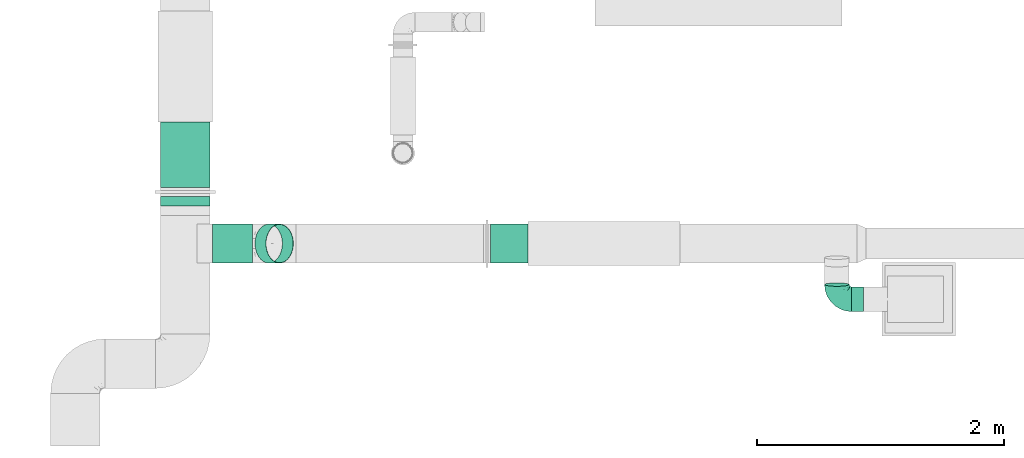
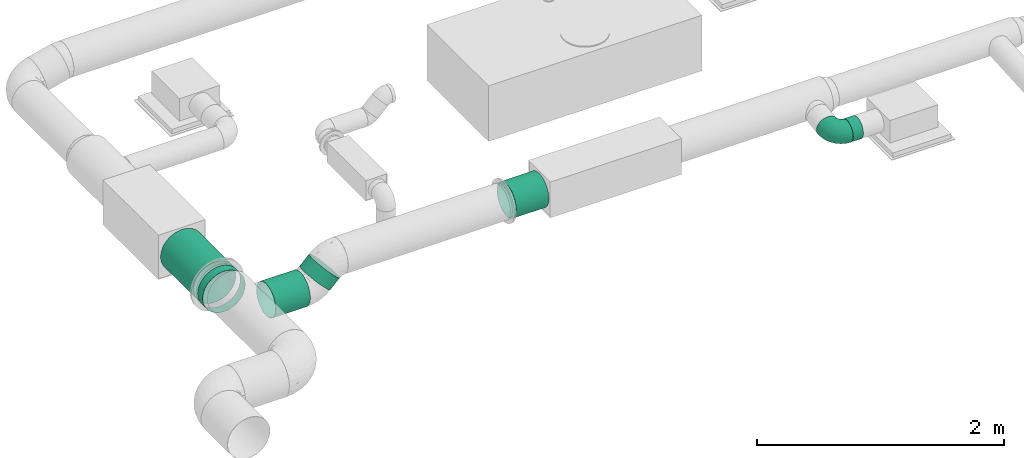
# One storey, part 3 of 16: 6 flow segments, 1 flow fitting.
"""IFC2X3 building model written with IfcOpenShell, lengths in millimetres."""

from ifc_helpers import new_model, entity, si_unit, converted_unit, derived_unit, direction, frame, origin_with_axes, origin_2d_with_axis, place, context, subcontext, project, spatial, hollow_circle, extrude, open_shell, surface_model, source, transform, mapped, type_object, element, save


model = new_model("IFC2X3")

# Units and contexts
model_context = context("Model", 3, precision=0.01, world=frame((0.0, 4.29681676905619e-09, 0.0)), true_north=direction((4.01073788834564e-13, 1.0)))
plan_context = context("Plan", 3, precision=0.01, world=frame((0.0, 4.29681676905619e-09, 0.0)), true_north=direction((4.01073788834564e-13, 1.0)))
body_context = subcontext(model_context, "Body", "Model", "MODEL_VIEW")
ifc_project = project(units=[converted_unit("PLANEANGLEUNIT", "DEGREE", entity("IfcPositiveLengthMeasure", 0.0174532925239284), si_unit("PLANEANGLEUNIT", "RADIAN"), dimensions=[0, 0, 0, 0, 0, 0, 0]), si_unit("AREAUNIT", "SQUARE_METRE"), si_unit("LENGTHUNIT", "METRE", prefix="MILLI"), si_unit("MASSUNIT", "GRAM", prefix="KILO"), si_unit("POWERUNIT", "WATT"), si_unit("PRESSUREUNIT", "PASCAL"), si_unit("FORCEUNIT", "NEWTON", prefix="KILO"), si_unit("ELECTRICVOLTAGEUNIT", "VOLT"), si_unit("ELECTRICCURRENTUNIT", "AMPERE"), si_unit("THERMODYNAMICTEMPERATUREUNIT", "DEGREE_CELSIUS"), si_unit("TIMEUNIT", "SECOND"), si_unit("VOLUMEUNIT", "CUBIC_METRE"), derived_unit("LINEARVELOCITYUNIT", [(si_unit("LENGTHUNIT", "METRE"), 1), (si_unit("TIMEUNIT", "SECOND"), -1)]), derived_unit("VOLUMETRICFLOWRATEUNIT", [(si_unit("VOLUMEUNIT", "CUBIC_METRE"), 1), (si_unit("TIMEUNIT", "SECOND"), -1)]), derived_unit("THERMALTRANSMITTANCEUNIT", [(si_unit("POWERUNIT", "WATT"), 1), (si_unit("THERMODYNAMICTEMPERATUREUNIT", "KELVIN"), -1), (si_unit("AREAUNIT", "SQUARE_METRE"), -1)]), derived_unit("SOUNDPRESSUREUNIT", [(si_unit("PRESSUREUNIT", "PASCAL"), 1)])], contexts=[model_context, plan_context])

# Site, building, storey
site_placement = place(None, frame((0.0, -4.29681676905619e-09, 0.0), z_axis=(0.0, 0.0, 1.0), x_axis=(1.0, 0.0, 0.0)))
site = spatial("IfcSite", under=ifc_project, at=site_placement, Name="ENGM", CompositionType="ELEMENT")
building_placement = place(site_placement, frame((0.0, 4.29681676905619e-09, 0.0), z_axis=(0.0, 0.0, 1.0), x_axis=(1.0, 0.0, 0.0)))
building = spatial("IfcBuilding", under=site, at=building_placement, Name="TH", CompositionType="ELEMENT")
storey_placement = place(building_placement, frame((0.0, 0.0, 210200.0), z_axis=(0.0, 0.0, 1.0), x_axis=(1.0, 0.0, 0.0)))
storey = spatial("IfcBuildingStorey", under=building, at=storey_placement, Name="Nivå F - 0,7 m", CompositionType="ELEMENT", Elevation=210200.0)

# Flow fitting
duct_fitting_type = type_object("IfcDuctFittingType", Name="magicirc_elbow_short_001", PredefinedType="BEND")
shared_shape_1 = source(origin_with_axes(), body_context, "Body", "SurfaceModel", [
    surface_model("IfcShellBasedSurfaceModel", [(-120.0, 0.0, -100.0), (-120.0, -86.60254, -50.0), (-120.0, 25.8819, -96.59259), (-120.0, 50.0, -86.60254), (-120.0, 70.71068, -70.71068), (-120.0, 96.59259, -25.8819), (-120.0, 86.60254, -50.0), (-120.0, -50.0, -86.60254), (-120.0, -70.71068, -70.71068), (-120.0, -25.8819, -96.59259), (-120.0, -96.59259, -25.8819), (-120.0, -100.0, 0.0), (-120.0, 96.59259, 25.8819), (-120.0, -96.59259, 25.8819), (-120.0, 86.60254, 50.0), (-120.0, 25.8819, 96.59259), (-120.0, 50.0, 86.60254), (-120.0, 70.71068, 70.71068), (-120.0, -25.8819, 96.59259), (-120.0, -70.71068, 70.71068), (-120.0, -50.0, 86.60254), (-120.0, -86.60254, 50.0), (-120.0, 0.0, 100.0), (-120.0, 100.0, 0.0), (-25.8819, 120.0, -96.59259), (70.71068, 120.0, -70.71068), (0.0, 120.0, -100.0), (-70.71068, 120.0, -70.71068), (-50.0, 120.0, -86.60254), (-86.60254, 120.0, -50.0), (-96.59259, 120.0, -25.8819), (86.60254, 120.0, -50.0), (25.8819, 120.0, -96.59259), (50.0, 120.0, -86.60254), (100.0, 120.0, 0.0), (96.59259, 120.0, -25.8819), (-96.59259, 120.0, 25.8819), (96.59259, 120.0, 25.8819), (-25.8819, 120.0, 96.59259), (-86.60254, 120.0, 50.0), (-70.71068, 120.0, 70.71068), (-50.0, 120.0, 86.60254), (25.8819, 120.0, 96.59259), (86.60254, 120.0, 50.0), (50.0, 120.0, 86.60254), (70.71068, 120.0, 70.71068), (0.0, 120.0, 100.0), (-100.0, 120.0, 0.0), (-57.47657, 95.22229, 84.95805), (-85.33946, -92.96309, 28.79275), (-95.20929, -97.20676, 0.0), (-84.48473, -65.01559, 72.95431), (-52.96075, -70.60035, 57.16979), (-58.29219, -58.77958, 72.2572), (-71.0454, -94.48414, 0.0), (-33.46621, 86.30074, 96.24781), (-7.45333, 88.76819, 99.94878), (-26.53059, -25.83103, 84.66541), (5.23459, -24.1841, 70.44192), (-1.23107, 1.23105, 87.74618), (-103.71213, 103.71213, 24.44784), (-95.28171, 98.70414, 48.64074), (-78.83961, -43.63421, 87.3226), (48.45058, -8.12007, 40.03254), (39.62941, -27.51041, 22.8702), (55.13075, -9.11298, 21.86769), (27.15427, -27.15428, 47.29752), (-0.9865, -46.35038, 53.41318), (-49.25997, -85.42957, 23.21428), (-69.41482, -80.94006, 48.93369), (34.63169, 2.36241, 66.9375), (-59.03727, -17.74459, 95.19283), (-92.36993, -18.34983, 97.75252), (-98.24586, -81.70799, 55.95793), (-87.21661, 7.38787, 99.96319), (-79.82304, 33.86298, 96.83649), (-103.25245, 34.36931, 94.48617), (-49.8635, 16.95363, 99.89181), (-93.99414, 57.52782, 85.21417), (-13.524, 31.6217, 98.29715), (-30.34675, -2.85909, 94.71053), (-102.74619, 77.59979, 67.01377), (-105.2102, 88.7141, 52.03645), (94.48414, 71.0454, 0.0), (92.96309, 85.33946, 28.79275), (85.42957, 49.25997, 23.21428), (18.34983, 92.36993, 97.75252), (-37.44754, -44.66633, 76.66985), (-66.8783, 56.54931, 92.80405), (65.01559, 84.48473, 72.95431), (43.6342, 78.83961, 87.3226), (37.67702, 38.38344, 81.78155), (58.58205, 33.30331, 61.93165), (58.77958, 58.29217, 72.2572), (14.52663, -47.57763, 31.54394), (81.70799, 98.24586, 55.95793), (97.20676, 95.20929, 0.0), (75.2275, 38.8764, 40.54554), (80.94006, 69.41482, 48.93369), (-19.32309, 64.21329, 99.87988), (-105.85786, 105.85786, 0.0), (17.74458, 59.03726, 95.19283), (70.60036, 52.96074, 57.16978), (-82.76473, 82.76473, 73.92657), (-77.59979, 102.74619, 67.01377), (-38.87641, -75.2275, 40.54555), (-40.86148, 50.04827, 98.96107), (-25.82378, -76.70765, 19.45345), (-49.50418, 71.23352, 93.94065), (-57.3172, 35.12243, 98.9453), (65.10804, 3.68891, 0.0), (65.80674, 11.30259, 30.40508), (15.01777, 28.10412, 90.12797), (-0.1518, 65.0789, 99.29745), (-47.79548, -86.34864, 0.0), (-67.45496, 75.91085, 85.7741), (-3.68891, -65.10804, 0.0), (17.16776, -52.00293, 0.0), (-11.30259, -65.80674, 30.40508), (-24.54558, -78.21315, 0.0), (76.76895, 27.91333, 23.28633), (86.34864, 47.79548, 0.0), (58.40844, 13.74403, 48.13414), (52.00293, -17.16776, 0.0), (20.33542, 8.19535, 80.42602), (-51.11653, -33.50476, 87.58865), (-33.30333, -58.58206, 61.93166), (-17.26255, -60.80757, 47.57586), (78.21315, 24.54558, 0.0), (34.58534, -34.58534, 0.0), (-86.30074, 33.4662, -96.24781), (-34.36932, 103.25245, -94.48617), (-11.30259, -65.80673, -30.40508), (9.11298, -55.13075, -21.86769), (-98.24586, -81.70799, -55.95793), (-88.7682, 7.45333, -99.94878), (43.63421, 78.83961, -87.3226), (-98.70414, 95.28171, -48.64074), (-82.76473, 82.76473, -73.92657), (-102.74619, 77.59979, -67.01377), (85.42957, 49.25997, -23.21428), (75.22749, 38.8764, -40.54555), (80.94006, 69.41482, -48.93369), (27.15427, -27.15428, -47.29753), (47.57763, -14.52663, -31.54396), (27.51041, -39.62941, -22.8702), (-71.23352, 49.50417, -93.94066), (-56.54932, 66.8783, -92.80405), (-50.04827, 40.86148, -98.96107), (-33.86298, 79.82303, -96.83649), (-57.52782, 93.99414, -85.21417), (-16.95364, 49.8635, -99.89182), (-31.6217, 13.52399, -98.29715), (-85.33946, -92.96309, -28.79275), (24.18408, -5.23461, -70.44192), (46.35038, 0.9865, -53.41318), (65.01559, 84.48472, -72.95431), (-84.48473, -65.01559, -72.95431), (-78.83961, -43.63421, -87.3226), (-103.71213, 103.71213, -24.44784), (-95.22229, 57.47657, -84.95805), (-49.25997, -85.42957, -23.21428), (-92.36993, -18.34984, -97.75252), (-38.87641, -75.2275, -40.54555), (-69.41482, -80.94006, -48.93369), (-88.7141, 105.2102, -52.03645), (-7.38786, 87.21659, -99.96319), (17.74459, 59.03726, -95.19283), (-33.30333, -58.58206, -61.93166), (-52.96075, -70.60035, -57.16979), (-77.59979, 102.74619, -67.01377), (-38.38346, -37.67703, -81.78155), (-2.36242, -34.6317, -66.93751), (18.34983, 92.36993, -97.75252), (81.70799, 98.24586, -55.95793), (8.12006, -48.45058, -40.03254), (-1.23106, 1.23105, -87.74618), (25.83103, 26.53058, -84.6654), (92.96309, 85.33946, -28.79275), (76.70765, 25.82378, -19.45345), (-59.03727, -17.74459, -95.19283), (2.8591, 30.34673, -94.71053), (-64.21329, 19.32309, -99.87988), (58.77958, 58.29219, -72.2572), (70.60035, 52.96075, -57.16979), (-58.29219, -58.77958, -72.2572), (-35.12244, 57.3172, -98.9453), (44.66633, 37.44754, -76.66985), (-28.10413, -15.01778, -90.12797), (-65.07891, 0.1518, -99.29745), (-75.91086, 67.45496, -85.7741), (-27.91333, -76.76895, -23.28633), (-13.74403, -58.40844, -48.13415), (65.80673, 11.30258, -30.40508), (-8.19536, -20.33543, -80.42602), (33.50476, 51.11653, -87.58865), (58.58205, 33.30333, -61.93166), (60.80757, 17.26255, -47.57586)], [open_shell([[[0, 1, 2]], [[3, 2, 4]], [[5, 6, 4]], [[1, 4, 2]], [[4, 1, 5]], [[7, 8, 9]], [[8, 0, 9]], [[10, 11, 1]], [[1, 0, 8]], [[1, 11, 5]], [[11, 12, 5]], [[12, 11, 13]], [[14, 12, 15]], [[15, 16, 17]], [[14, 15, 17]], [[15, 12, 18]], [[19, 20, 21]], [[13, 21, 20]], [[13, 20, 12]], [[20, 18, 12]], [[18, 22, 15]], [[23, 5, 12]], [[24, 25, 26]], [[27, 24, 28]], [[27, 29, 30]], [[24, 27, 31]], [[30, 31, 27]], [[32, 25, 33]], [[32, 26, 25]], [[31, 34, 35]], [[25, 24, 31]], [[30, 34, 31]], [[30, 36, 34]], [[37, 34, 36]], [[38, 36, 39]], [[40, 41, 38]], [[40, 38, 39]], [[42, 36, 38]], [[43, 44, 45]], [[44, 43, 37]], [[36, 44, 37]], [[36, 42, 44]], [[38, 46, 42]], [[36, 30, 47]], [[41, 40, 48]], [[49, 13, 50]], [[49, 21, 13]], [[51, 52, 53]], [[50, 54, 49]], [[38, 55, 56]], [[57, 58, 59]], [[60, 61, 36]], [[20, 51, 62]], [[63, 64, 65]], [[66, 58, 67]], [[49, 68, 69]], [[20, 19, 51]], [[58, 66, 70]], [[62, 71, 72]], [[22, 18, 72]], [[73, 19, 21]], [[74, 75, 76]], [[75, 74, 77]], [[16, 76, 78]], [[79, 77, 80]], [[17, 81, 14]], [[82, 12, 14]], [[81, 82, 14]], [[23, 12, 60]], [[83, 84, 85]], [[16, 78, 17]], [[41, 48, 55]], [[42, 46, 86]], [[53, 87, 62]], [[18, 20, 62]], [[75, 88, 78]], [[89, 45, 44]], [[86, 90, 42]], [[60, 12, 82]], [[44, 42, 90]], [[91, 92, 93]], [[84, 37, 43]], [[66, 94, 64]], [[90, 89, 44]], [[45, 95, 43]], [[84, 96, 37]], [[97, 85, 98]], [[15, 76, 16]], [[99, 56, 55]], [[100, 23, 60]], [[91, 90, 101]], [[100, 60, 47]], [[92, 97, 102]], [[103, 104, 61]], [[68, 105, 69]], [[106, 77, 79]], [[61, 39, 36]], [[40, 39, 104]], [[15, 22, 74]], [[107, 105, 68]], [[108, 88, 106]], [[55, 38, 41]], [[56, 46, 38]], [[92, 91, 70]], [[109, 77, 106]], [[110, 111, 65]], [[74, 71, 77]], [[72, 74, 22]], [[80, 71, 57]], [[75, 109, 88]], [[81, 78, 103]], [[112, 79, 59]], [[113, 56, 99]], [[68, 54, 114]], [[73, 49, 69]], [[95, 84, 43]], [[85, 84, 98]], [[104, 48, 40]], [[115, 88, 108]], [[108, 99, 55]], [[56, 113, 86]], [[102, 93, 92]], [[95, 89, 98]], [[73, 51, 19]], [[52, 69, 105]], [[116, 117, 118]], [[68, 119, 107]], [[107, 116, 118]], [[67, 94, 66]], [[97, 111, 120]], [[85, 121, 83]], [[70, 63, 122]], [[65, 123, 110]], [[101, 112, 91]], [[66, 64, 63]], [[124, 91, 112]], [[70, 124, 58]], [[59, 80, 57]], [[58, 87, 67]], [[57, 125, 87]], [[58, 57, 87]], [[99, 108, 106]], [[78, 88, 115]], [[56, 86, 46]], [[90, 86, 101]], [[62, 72, 18]], [[74, 72, 71]], [[61, 104, 39]], [[104, 103, 115]], [[78, 81, 17]], [[82, 103, 61]], [[126, 127, 67]], [[67, 127, 94]], [[85, 128, 121]], [[94, 129, 64]], [[110, 120, 111]], [[63, 65, 111]], [[122, 63, 111]], [[70, 66, 63]], [[79, 80, 59]], [[77, 71, 80]], [[106, 79, 99]], [[113, 79, 101]], [[55, 48, 108]], [[48, 104, 115]], [[48, 115, 108]], [[78, 115, 103]], [[127, 105, 118]], [[105, 127, 52]], [[53, 52, 126]], [[51, 69, 52]], [[87, 53, 126]], [[62, 51, 53]], [[87, 126, 67]], [[57, 71, 125]], [[71, 62, 125]], [[62, 87, 125]], [[102, 97, 98]], [[122, 97, 92]], [[98, 89, 102]], [[93, 102, 89]], [[89, 90, 93]], [[91, 93, 90]], [[97, 122, 111]], [[70, 122, 92]], [[79, 113, 99]], [[86, 113, 101]], [[64, 123, 65]], [[85, 97, 120]], [[79, 112, 101]], [[120, 110, 128]], [[124, 112, 59]], [[58, 124, 59]], [[91, 124, 70]], [[103, 82, 81]], [[82, 61, 60]], [[13, 11, 50]], [[96, 84, 83]], [[96, 34, 37]], [[47, 60, 36]], [[74, 76, 15]], [[78, 76, 75]], [[49, 73, 21]], [[51, 73, 69]], [[89, 95, 45]], [[84, 95, 98]], [[88, 109, 106]], [[75, 77, 109]], [[54, 68, 49]], [[114, 119, 68]], [[105, 107, 118]], [[107, 119, 116]], [[117, 94, 118]], [[127, 126, 52]], [[94, 127, 118]], [[129, 94, 117]], [[129, 123, 64]], [[128, 85, 120]], [[3, 130, 2]], [[24, 131, 28]], [[132, 133, 116]], [[8, 134, 1]], [[2, 135, 0]], [[32, 33, 136]], [[137, 138, 139]], [[140, 141, 142]], [[6, 139, 4]], [[143, 144, 145]], [[6, 5, 137]], [[146, 147, 148]], [[149, 147, 150]], [[148, 151, 152]], [[1, 153, 10]], [[143, 154, 155]], [[153, 50, 10]], [[33, 25, 156]], [[157, 7, 158]], [[159, 137, 5]], [[8, 7, 157]], [[7, 9, 158]], [[3, 4, 160]], [[35, 34, 96]], [[54, 153, 161]], [[9, 162, 158]], [[163, 161, 164]], [[165, 30, 29]], [[23, 100, 159]], [[166, 167, 151]], [[47, 30, 159]], [[168, 163, 169]], [[29, 170, 165]], [[24, 26, 166]], [[168, 171, 172]], [[27, 170, 29]], [[149, 131, 166]], [[160, 130, 3]], [[149, 166, 151]], [[136, 167, 173]], [[174, 25, 31]], [[27, 28, 150]], [[28, 131, 150]], [[32, 173, 26]], [[136, 33, 156]], [[154, 143, 172]], [[2, 130, 135]], [[133, 175, 145]], [[154, 176, 177]], [[9, 0, 162]], [[140, 142, 178]], [[179, 141, 140]], [[96, 83, 178]], [[35, 96, 178]], [[171, 158, 180]], [[152, 151, 181]], [[182, 135, 130]], [[183, 156, 184]], [[171, 168, 185]], [[178, 31, 35]], [[173, 166, 26]], [[159, 5, 23]], [[149, 151, 186]], [[183, 187, 136]], [[181, 167, 177]], [[149, 186, 147]], [[170, 150, 138]], [[188, 152, 176]], [[189, 135, 182]], [[134, 153, 1]], [[161, 153, 164]], [[140, 83, 121]], [[174, 178, 142]], [[139, 160, 4]], [[190, 147, 146]], [[146, 182, 130]], [[135, 189, 162]], [[169, 185, 168]], [[134, 157, 164]], [[174, 156, 25]], [[184, 142, 141]], [[163, 132, 191]], [[161, 114, 54]], [[172, 175, 192]], [[133, 117, 116]], [[110, 123, 193]], [[140, 128, 179]], [[179, 110, 193]], [[155, 144, 143]], [[180, 188, 171]], [[143, 145, 175]], [[194, 171, 188]], [[172, 194, 154]], [[176, 181, 177]], [[154, 187, 155]], [[177, 195, 187]], [[154, 177, 187]], [[182, 146, 148]], [[150, 147, 190]], [[135, 162, 0]], [[158, 162, 180]], [[136, 173, 32]], [[166, 173, 167]], [[137, 139, 6]], [[139, 138, 190]], [[150, 170, 27]], [[165, 138, 137]], [[196, 197, 155]], [[155, 197, 144]], [[197, 196, 184]], [[144, 129, 145]], [[116, 191, 132]], [[175, 133, 132]], [[192, 175, 132]], [[172, 143, 175]], [[152, 181, 176]], [[151, 167, 181]], [[148, 152, 182]], [[189, 152, 180]], [[130, 160, 146]], [[160, 139, 190]], [[160, 190, 146]], [[150, 190, 138]], [[169, 163, 164]], [[192, 163, 168]], [[164, 157, 169]], [[185, 169, 157]], [[157, 158, 185]], [[171, 185, 158]], [[197, 141, 193]], [[141, 197, 184]], [[183, 184, 196]], [[156, 142, 184]], [[187, 183, 196]], [[136, 156, 183]], [[187, 196, 155]], [[177, 167, 195]], [[167, 136, 195]], [[136, 187, 195]], [[163, 192, 132]], [[172, 192, 168]], [[152, 189, 182]], [[162, 189, 180]], [[145, 117, 133]], [[161, 163, 191]], [[152, 188, 180]], [[191, 116, 119]], [[194, 188, 176]], [[154, 194, 176]], [[171, 194, 172]], [[138, 165, 170]], [[165, 137, 159]], [[50, 153, 54]], [[50, 11, 10]], [[47, 159, 100]], [[159, 30, 165]], [[166, 131, 24]], [[150, 131, 149]], [[178, 174, 31]], [[156, 174, 142]], [[157, 134, 8]], [[153, 134, 164]], [[151, 148, 186]], [[147, 186, 148]], [[161, 119, 114]], [[83, 140, 178]], [[121, 128, 140]], [[141, 179, 193]], [[179, 128, 110]], [[123, 144, 193]], [[144, 197, 193]], [[129, 144, 123]], [[129, 117, 145]], [[119, 161, 191]]])]),
])
flow_fitting_placement = place(storey_placement, frame((901834.83019, 482225.40642, 2798.0), z_axis=(0.0, -0.139551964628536, 0.990214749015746), x_axis=(0.0, -0.990214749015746, -0.139551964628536)))
element("IfcFlowFitting", 1, at=flow_fitting_placement, inside=storey, type_object=duct_fitting_type, Name="magicirc_elbow_short_001", context=body_context, shape_type="MappedRepresentation", body=[
    mapped(shared_shape_1, transform((0.0, 0.0, 0.0), scale=1.0)),
])

# Flow segments
duct_segment_type = type_object("IfcDuctSegmentType", Name="2 - Spiro kanaler, Forsinket stål", PredefinedType="RIGIDSEGMENT")
shared_shape_2 = source(origin_with_axes(), body_context, "Body", "SweptSolid", [
    extrude(hollow_circle(Radius=100.0, WallThickness=2.0, at=origin_2d_with_axis()), frame((0.0, 0.0, 0.0), z_axis=(1.0, 0.0, 0.0), x_axis=(0.0, 1.0, 0.0)), (0.0, 0.0, 1.0), 95.0),
])
flow_segment_1_placement = place(storey_placement, frame((902049.83019, 482225.40642, 2798.0), z_axis=(0.0, 0.0, 1.0), x_axis=(-1.0, 0.0, 0.0)))
element("IfcFlowSegment", 2, at=flow_segment_1_placement, inside=storey, type_object=duct_segment_type, Name="2 - Spiro kanaler, Forsinket stål", context=body_context, shape_type="MappedRepresentation", body=[
    mapped(shared_shape_2, transform((0.0, 0.0, 0.0), scale=1.0)),
])
shared_shape_3 = source(origin_with_axes(), body_context, "Body", "SweptSolid", [
    extrude(hollow_circle(Radius=157.5, WallThickness=2.0, at=origin_2d_with_axis()), frame((0.0, 0.0, 0.0), z_axis=(1.0, 0.0, 0.0), x_axis=(0.0, 1.0, 0.0)), (0.0, 0.0, 1.0), 124.6),
])
flow_segment_2_placement = place(storey_placement, frame((897321.13535, 482676.69257, 2806.24317999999), z_axis=(-0.707106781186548, 0.0, 0.707106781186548), x_axis=(-0.707106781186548, 0.0, -0.707106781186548)))
element("IfcFlowSegment", 3, at=flow_segment_2_placement, inside=storey, type_object=duct_segment_type, Name="2 - Spiro kanaler, Forsinket stål", context=body_context, shape_type="MappedRepresentation", body=[
    mapped(shared_shape_3, transform((0.0, 0.0, 0.0), scale=1.0)),
])
shared_shape_4 = source(origin_with_axes(), body_context, "Body", "SweptSolid", [
    extrude(hollow_circle(Radius=157.5, WallThickness=2.0, at=origin_2d_with_axis()), frame((0.0, 0.0, 0.0), z_axis=(1.0, 0.0, 0.0), x_axis=(0.0, 1.0, 0.0)), (0.0, 0.0, 1.0), 323.5),
])
flow_segment_3_placement = place(storey_placement, frame((897099.39586, 482676.69257, 2662.80703), z_axis=(8.99999996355e-05, 0.0, 0.99999999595), x_axis=(-0.99999999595, 0.0, 8.99999996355e-05)))
element("IfcFlowSegment", 4, at=flow_segment_3_placement, inside=storey, type_object=duct_segment_type, Name="2 - Spiro kanaler, Forsinket stål", context=body_context, shape_type="MappedRepresentation", body=[
    mapped(shared_shape_4, transform((0.0, 0.0, 0.0), scale=1.0)),
])
shared_shape_5 = source(origin_with_axes(), body_context, "Body", "SweptSolid", [
    extrude(hollow_circle(Radius=157.5, WallThickness=2.0, at=origin_2d_with_axis()), frame((0.0, 0.0, 0.0), z_axis=(1.0, 0.0, 0.0), x_axis=(0.0, 1.0, 0.0)), (0.0, 0.0, 1.0), 306.2),
])
flow_segment_4_placement = place(storey_placement, frame((899333.31905, 482676.69257, 2861.60000000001), z_axis=(0.0, 0.0, 1.0), x_axis=(-1.0, 0.0, 0.0)))
element("IfcFlowSegment", 5, at=flow_segment_4_placement, inside=storey, type_object=duct_segment_type, Name="2 - Spiro kanaler, Forsinket stål", context=body_context, shape_type="MappedRepresentation", body=[
    mapped(shared_shape_5, transform((0.0, 0.0, 0.0), scale=1.0)),
])
shared_shape_6 = source(origin_with_axes(), body_context, "Body", "SweptSolid", [
    extrude(hollow_circle(Radius=200.0, WallThickness=2.0, at=origin_2d_with_axis()), frame((0.0, 0.0, 0.0), z_axis=(1.0, 0.0, 0.0), x_axis=(0.0, 1.0, 0.0)), (0.0, 0.0, 1.0), 80.8),
])
flow_segment_5_placement = place(storey_placement, frame((896556.49216, 482978.92473, 2637.79999999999), z_axis=(0.0, 0.0, 1.0), x_axis=(0.0, 1.0, 0.0)))
element("IfcFlowSegment", 6, at=flow_segment_5_placement, inside=storey, type_object=duct_segment_type, Name="2 - Spiro kanaler, Forsinket stål", context=body_context, shape_type="MappedRepresentation", body=[
    mapped(shared_shape_6, transform((0.0, 0.0, 0.0), scale=1.0)),
])
shared_shape_7 = source(origin_with_axes(), body_context, "Body", "SweptSolid", [
    extrude(hollow_circle(Radius=200.0, WallThickness=2.0, at=origin_2d_with_axis()), frame((0.0, 0.0, 0.0), z_axis=(1.0, 0.0, 0.0), x_axis=(0.0, 1.0, 0.0)), (0.0, 0.0, 1.0), 531.7),
])
flow_segment_6_placement = place(storey_placement, frame((896556.49216, 483129.7625, 2637.79999999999), z_axis=(0.0, 0.0, 1.0), x_axis=(0.0, 1.0, 0.0)))
element("IfcFlowSegment", 7, at=flow_segment_6_placement, inside=storey, type_object=duct_segment_type, Name="2 - Spiro kanaler, Forsinket stål", context=body_context, shape_type="MappedRepresentation", body=[
    mapped(shared_shape_7, transform((0.0, 0.0, 0.0), scale=1.0)),
])

save(model, "model.ifc")
